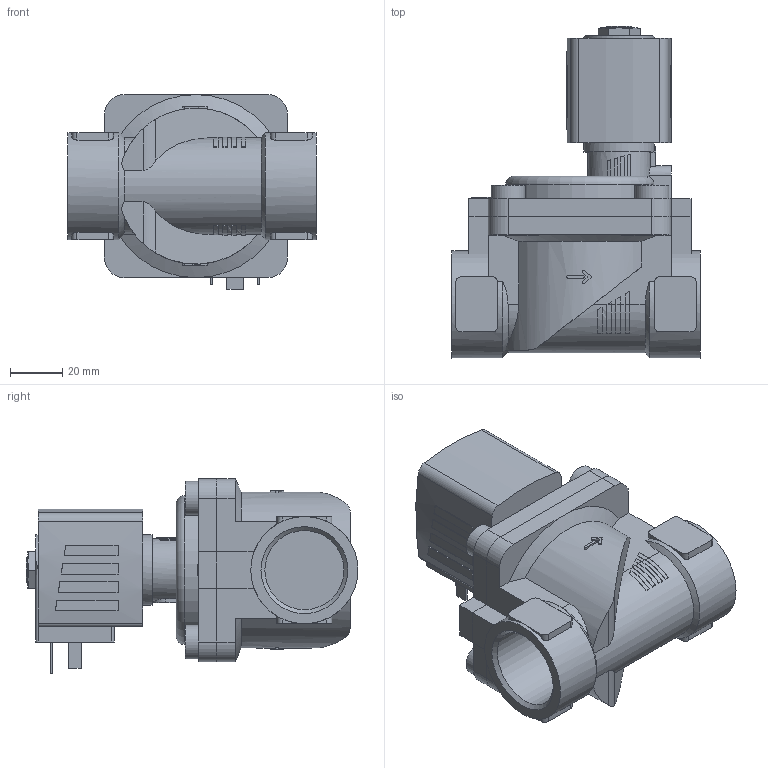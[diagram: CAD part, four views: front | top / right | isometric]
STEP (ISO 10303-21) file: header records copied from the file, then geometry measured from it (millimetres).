
FILE_DESCRIPTION(/* description */ ('STEP AP214'),/* implementation_level */ '2;1');
FILE_NAME(/* name */ '6281-341985-2_2-Way_Solenoid_Valve__Servo-assisted__General_Purpose',/* time_stamp */ '2024-06-21T15:51:16+02:00',/* author */ ('License CC BY-ND 4.0'),/* organization */ ('CADENAS'),/* preprocessor_version */ 'ST-DEVELOPER v19.3',/* originating_system */ 'PARTsolutions',/* authorisation */ ' ');
FILE_SCHEMA (('AUTOMOTIVE_DESIGN {1 0 10303 214 3 1 1}'));
Length unit declared in the file: millimetre
Products named in the file (4): 6281-341985-2/2-Way Solenoid Valve, Servo-assisted, General Purpose; 5281ev250MS2/2-Wege-Magnetventil mit Servomembran-Deckel   ; 6213-25G1MS-Gehaeuse-; AC10ex-6NA38-Plan-Coil
Assembly tree (3 placements, depth 2):
  6281-341985-2/2-Way Solenoid Valve, Servo-assisted, General Purpose
    5281ev250MS2/2-Wege-Magnetventil mit Servomembran-Deckel   
    6213-25G1MS-Gehaeuse-
    AC10ex-6NA38-Plan-Coil
Bounding box: 95 x 127 x 74.5 mm (x, y, z)
Volume: 309708.6 mm3; surface area: 56772 mm2
Topology: 3 solids, 3 shells, 337 faces, 886 edges, 584 vertices
Faces by surface type: plane 234, cylinder 89, cone 13, torus 1
Full cylindrical faces by diameter (mm): 2.013 x1, 9.74 x1, 13 x4, 27 x1, 30.291 x2, 41 x2
Entity records: 11603 total; most frequent: CARTESIAN_POINT 2043, ORIENTED_EDGE 1724, DIRECTION 1716, EDGE_CURVE 862, AXIS2_PLACEMENT_3D 582, VERTEX_POINT 576, LINE 552, VECTOR 552
